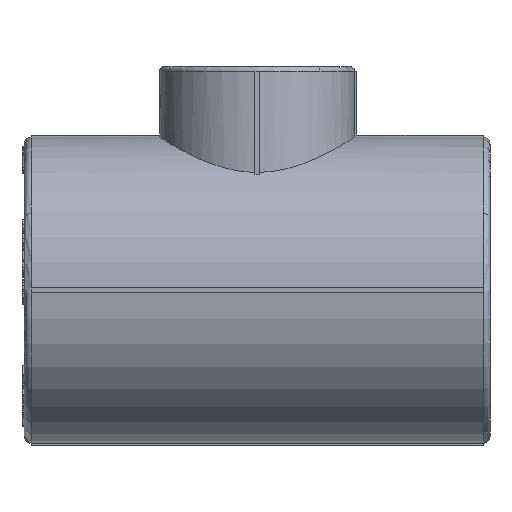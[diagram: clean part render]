
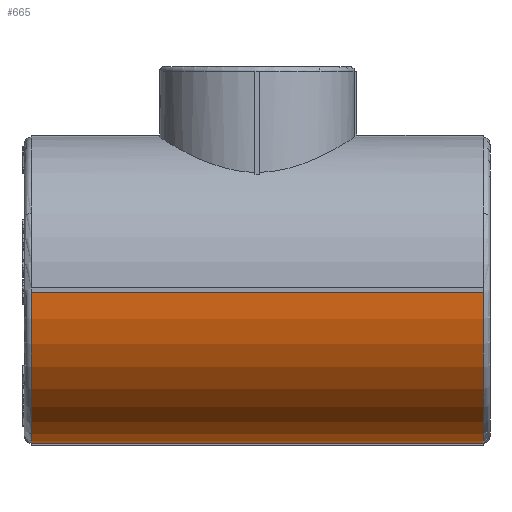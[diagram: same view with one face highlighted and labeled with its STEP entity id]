
A CAD part, left-side view. The second image highlights one B-rep face of the part: STEP entity #665.
In plain terms, the highlighted cylindrical face has radius 33.5 mm (diameter 67 mm), a partial arc.
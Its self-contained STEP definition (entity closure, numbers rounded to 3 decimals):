
#665=ADVANCED_FACE('',(#5161),#5163,.T.);
#5161=FACE_BOUND('',#5162,.T.);
#5162=EDGE_LOOP('',(#13120,#13121,#13122,#13123));
#5163=CYLINDRICAL_SURFACE('',#5164,33.5);
#5164=AXIS2_PLACEMENT_3D('',#5165,#5166,#5167);
#5165=CARTESIAN_POINT('',(0.,-51.,0.));
#5166=DIRECTION('',(0.,1.,0.));
#5167=DIRECTION('',(-1.,0.,0.));
#13120=ORIENTED_EDGE('',*,*,#18573,.F.);
#13121=ORIENTED_EDGE('',*,*,#18574,.T.);
#13122=ORIENTED_EDGE('',*,*,#18575,.F.);
#13123=ORIENTED_EDGE('',*,*,#18536,.F.);
#18536=EDGE_CURVE('',#22826,#22828,#22829,.T.);
#18573=EDGE_CURVE('',#22895,#22826,#22896,.T.);
#18574=EDGE_CURVE('',#22895,#22897,#22898,.T.);
#18575=EDGE_CURVE('',#22828,#22897,#22899,.F.);
#22826=VERTEX_POINT('',#31501);
#22828=VERTEX_POINT('',#31506);
#22829=CIRCLE('',#31507,33.5);
#22895=VERTEX_POINT('',#31903);
#22896=LINE('',#31904,#31905);
#22897=VERTEX_POINT('',#31907);
#22898=CIRCLE('',#31908,33.5);
#22899=LINE('',#31912,#31913);
#31501=CARTESIAN_POINT('',(-0.5,49.5,-33.496));
#31506=CARTESIAN_POINT('',(-33.496,49.5,-0.5));
#31507=AXIS2_PLACEMENT_3D('',#31508,#31509,#31510);
#31508=CARTESIAN_POINT('',(0.,49.5,0.));
#31509=DIRECTION('',(0.,1.,0.));
#31510=DIRECTION('',(-0.015,0.,-1.));
#31903=CARTESIAN_POINT('',(-0.5,-49.5,-33.496));
#31904=CARTESIAN_POINT('',(-0.5,-49.5,-33.496));
#31905=VECTOR('',#31906,1.);
#31906=DIRECTION('',(0.,1.,0.));
#31907=CARTESIAN_POINT('',(-33.496,-49.5,-0.5));
#31908=AXIS2_PLACEMENT_3D('',#31909,#31910,#31911);
#31909=CARTESIAN_POINT('',(0.,-49.5,0.));
#31910=DIRECTION('',(0.,1.,0.));
#31911=DIRECTION('',(-0.015,0.,-1.));
#31912=CARTESIAN_POINT('',(-33.496,-49.5,-0.5));
#31913=VECTOR('',#31914,1.);
#31914=DIRECTION('',(0.,1.,0.));
